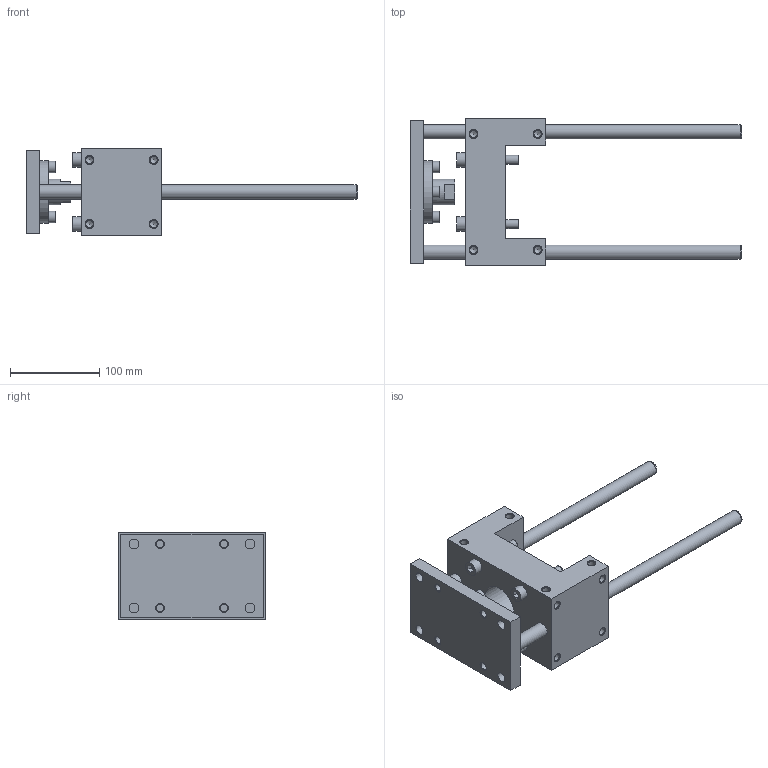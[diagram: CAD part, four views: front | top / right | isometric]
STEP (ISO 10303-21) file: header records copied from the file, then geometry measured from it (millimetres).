
FILE_DESCRIPTION( ( 'STEP AP214' ), '1' );
FILE_NAME( 'U:/Etudes/Top Solid/BIBLIO 3D AVM/TOP/PNEUMATIQUE/GUIDAGES/Type 34 (en U)/_Légère/3484130.step', '2005-05-27T12:35:23', ( ' ' ), ( ' ' ), 'XStep 1.0', ' ', ' ' );
FILE_SCHEMA( ( 'automotive_design' ) );
Length unit declared in the file: metre
Products named in the file (2): 1; 2
Bounding box: 372 x 165 x 98 mm (x, y, z)
Volume: 1282927 mm3; surface area: 203304.3 mm2
Topology: 2 solids, 7 shells, 245 faces, 598 edges, 389 vertices
Faces by surface type: plane 108, cylinder 92, cone 45
Full cylindrical faces by diameter (mm): 4.918 x4, 8 x8, 8.376 x32, 8.5 x4, 10 x8, 11 x8, 13 x4, 16 x8, 18.376 x2, 29 x1, 32 x1, 42 x1, 45 x2, 70 x1
Entity records: 8253 total; most frequent: CARTESIAN_POINT 1235, DIRECTION 1080, ORIENTED_EDGE 790, AXIS2_PLACEMENT_3D 446, EDGE_LOOP 436, EDGE_CURVE 395, FACE_OUTER_BOUND 329, VERTEX_POINT 329
